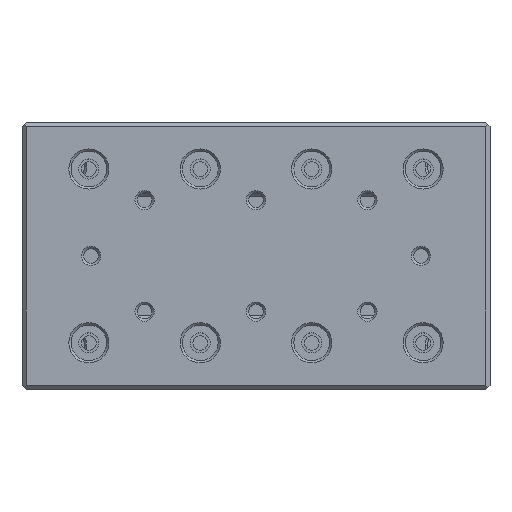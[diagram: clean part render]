
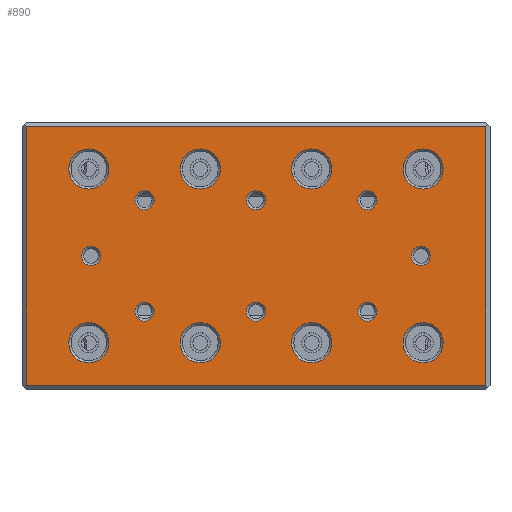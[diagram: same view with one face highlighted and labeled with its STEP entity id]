
A CAD part, top view. The second image highlights one B-rep face of the part: STEP entity #890.
In plain terms, the highlighted planar face has unit normal (0, 0, 1) as drawn and (0, 0, -1) by its records, which use the part's own axes.
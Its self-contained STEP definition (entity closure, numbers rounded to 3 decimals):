
#890=ADVANCED_FACE('',(#1558,#1559,#1560,#1561,#1562,#1563,#1564,#1565,
#1566,#1567,#1568,#1569,#1570,#1571,#1572,#1573,#1574),#1068,.F.);
#1068=PLANE('',#5979);
#1363=CIRCLE('',#5963,2.15);
#1364=CIRCLE('',#5964,2.15);
#1365=CIRCLE('',#5965,2.15);
#1366=CIRCLE('',#5966,2.15);
#1367=CIRCLE('',#5967,2.15);
#1368=CIRCLE('',#5968,2.15);
#1369=CIRCLE('',#5969,2.15);
#1370=CIRCLE('',#5970,2.15);
#1371=CIRCLE('',#5971,4.5);
#1372=CIRCLE('',#5972,4.5);
#1373=CIRCLE('',#5973,4.5);
#1374=CIRCLE('',#5974,4.5);
#1375=CIRCLE('',#5975,4.5);
#1376=CIRCLE('',#5976,4.5);
#1377=CIRCLE('',#5977,4.5);
#1378=CIRCLE('',#5978,4.5);
#1558=FACE_BOUND('',#2058,.T.);
#1559=FACE_BOUND('',#2059,.T.);
#1560=FACE_BOUND('',#2060,.T.);
#1561=FACE_BOUND('',#2061,.T.);
#1562=FACE_BOUND('',#2062,.T.);
#1563=FACE_BOUND('',#2063,.T.);
#1564=FACE_BOUND('',#2064,.T.);
#1565=FACE_BOUND('',#2065,.T.);
#1566=FACE_BOUND('',#2066,.T.);
#1567=FACE_BOUND('',#2067,.T.);
#1568=FACE_BOUND('',#2068,.T.);
#1569=FACE_BOUND('',#2069,.T.);
#1570=FACE_BOUND('',#2070,.T.);
#1571=FACE_BOUND('',#2071,.T.);
#1572=FACE_BOUND('',#2072,.T.);
#1573=FACE_BOUND('',#2073,.T.);
#1574=FACE_BOUND('',#2074,.T.);
#2058=EDGE_LOOP('',(#3345,#3346,#3347,#3348));
#2059=EDGE_LOOP('',(#3349));
#2060=EDGE_LOOP('',(#3350));
#2061=EDGE_LOOP('',(#3351));
#2062=EDGE_LOOP('',(#3352));
#2063=EDGE_LOOP('',(#3353));
#2064=EDGE_LOOP('',(#3354));
#2065=EDGE_LOOP('',(#3355));
#2066=EDGE_LOOP('',(#3356));
#2067=EDGE_LOOP('',(#3357));
#2068=EDGE_LOOP('',(#3358));
#2069=EDGE_LOOP('',(#3359));
#2070=EDGE_LOOP('',(#3360));
#2071=EDGE_LOOP('',(#3361));
#2072=EDGE_LOOP('',(#3362));
#2073=EDGE_LOOP('',(#3363));
#2074=EDGE_LOOP('',(#3364));
#3345=ORIENTED_EDGE('',*,*,#4735,.T.);
#3346=ORIENTED_EDGE('',*,*,#4736,.T.);
#3347=ORIENTED_EDGE('',*,*,#4737,.T.);
#3348=ORIENTED_EDGE('',*,*,#4738,.T.);
#3349=ORIENTED_EDGE('',*,*,#4739,.T.);
#3350=ORIENTED_EDGE('',*,*,#4740,.T.);
#3351=ORIENTED_EDGE('',*,*,#4741,.T.);
#3352=ORIENTED_EDGE('',*,*,#4742,.T.);
#3353=ORIENTED_EDGE('',*,*,#4743,.T.);
#3354=ORIENTED_EDGE('',*,*,#4744,.T.);
#3355=ORIENTED_EDGE('',*,*,#4745,.T.);
#3356=ORIENTED_EDGE('',*,*,#4746,.T.);
#3357=ORIENTED_EDGE('',*,*,#4747,.T.);
#3358=ORIENTED_EDGE('',*,*,#4748,.T.);
#3359=ORIENTED_EDGE('',*,*,#4749,.T.);
#3360=ORIENTED_EDGE('',*,*,#4750,.T.);
#3361=ORIENTED_EDGE('',*,*,#4751,.T.);
#3362=ORIENTED_EDGE('',*,*,#4752,.T.);
#3363=ORIENTED_EDGE('',*,*,#4753,.T.);
#3364=ORIENTED_EDGE('',*,*,#4754,.T.);
#4048=VERTEX_POINT('',#9202);
#4049=VERTEX_POINT('',#9203);
#4050=VERTEX_POINT('',#9205);
#4051=VERTEX_POINT('',#9207);
#4052=VERTEX_POINT('',#9210);
#4053=VERTEX_POINT('',#9212);
#4054=VERTEX_POINT('',#9214);
#4055=VERTEX_POINT('',#9216);
#4056=VERTEX_POINT('',#9218);
#4057=VERTEX_POINT('',#9220);
#4058=VERTEX_POINT('',#9222);
#4059=VERTEX_POINT('',#9224);
#4060=VERTEX_POINT('',#9226);
#4061=VERTEX_POINT('',#9228);
#4062=VERTEX_POINT('',#9230);
#4063=VERTEX_POINT('',#9232);
#4064=VERTEX_POINT('',#9234);
#4065=VERTEX_POINT('',#9236);
#4066=VERTEX_POINT('',#9238);
#4067=VERTEX_POINT('',#9240);
#4735=EDGE_CURVE('',#4048,#4049,#5115,.T.);
#4736=EDGE_CURVE('',#4049,#4050,#5116,.T.);
#4737=EDGE_CURVE('',#4050,#4051,#5117,.T.);
#4738=EDGE_CURVE('',#4051,#4048,#5118,.T.);
#4739=EDGE_CURVE('',#4052,#4052,#1363,.T.);
#4740=EDGE_CURVE('',#4053,#4053,#1364,.T.);
#4741=EDGE_CURVE('',#4054,#4054,#1365,.T.);
#4742=EDGE_CURVE('',#4055,#4055,#1366,.T.);
#4743=EDGE_CURVE('',#4056,#4056,#1367,.T.);
#4744=EDGE_CURVE('',#4057,#4057,#1368,.T.);
#4745=EDGE_CURVE('',#4058,#4058,#1369,.T.);
#4746=EDGE_CURVE('',#4059,#4059,#1370,.T.);
#4747=EDGE_CURVE('',#4060,#4060,#1371,.T.);
#4748=EDGE_CURVE('',#4061,#4061,#1372,.T.);
#4749=EDGE_CURVE('',#4062,#4062,#1373,.T.);
#4750=EDGE_CURVE('',#4063,#4063,#1374,.T.);
#4751=EDGE_CURVE('',#4064,#4064,#1375,.T.);
#4752=EDGE_CURVE('',#4065,#4065,#1376,.T.);
#4753=EDGE_CURVE('',#4066,#4066,#1377,.T.);
#4754=EDGE_CURVE('',#4067,#4067,#1378,.T.);
#5115=LINE('',#9201,#5397);
#5116=LINE('',#9204,#5398);
#5117=LINE('',#9206,#5399);
#5118=LINE('',#9208,#5400);
#5397=VECTOR('',#7354,1.);
#5398=VECTOR('',#7355,1.);
#5399=VECTOR('',#7356,1.);
#5400=VECTOR('',#7357,1.);
#5963=AXIS2_PLACEMENT_3D('',#9209,#7358,#7359);
#5964=AXIS2_PLACEMENT_3D('',#9211,#7360,#7361);
#5965=AXIS2_PLACEMENT_3D('',#9213,#7362,#7363);
#5966=AXIS2_PLACEMENT_3D('',#9215,#7364,#7365);
#5967=AXIS2_PLACEMENT_3D('',#9217,#7366,#7367);
#5968=AXIS2_PLACEMENT_3D('',#9219,#7368,#7369);
#5969=AXIS2_PLACEMENT_3D('',#9221,#7370,#7371);
#5970=AXIS2_PLACEMENT_3D('',#9223,#7372,#7373);
#5971=AXIS2_PLACEMENT_3D('',#9225,#7374,#7375);
#5972=AXIS2_PLACEMENT_3D('',#9227,#7376,#7377);
#5973=AXIS2_PLACEMENT_3D('',#9229,#7378,#7379);
#5974=AXIS2_PLACEMENT_3D('',#9231,#7380,#7381);
#5975=AXIS2_PLACEMENT_3D('',#9233,#7382,#7383);
#5976=AXIS2_PLACEMENT_3D('',#9235,#7384,#7385);
#5977=AXIS2_PLACEMENT_3D('',#9237,#7386,#7387);
#5978=AXIS2_PLACEMENT_3D('',#9239,#7388,#7389);
#5979=AXIS2_PLACEMENT_3D('',#9241,#7390,#7391);
#7354=DIRECTION('',(1.,0.,0.));
#7355=DIRECTION('',(0.,-1.,0.));
#7356=DIRECTION('',(-1.,0.,0.));
#7357=DIRECTION('',(0.,1.,0.));
#7358=DIRECTION('',(0.,0.,1.));
#7359=DIRECTION('',(1.,0.,0.));
#7360=DIRECTION('',(0.,0.,1.));
#7361=DIRECTION('',(1.,0.,0.));
#7362=DIRECTION('',(0.,0.,1.));
#7363=DIRECTION('',(1.,0.,0.));
#7364=DIRECTION('',(0.,0.,1.));
#7365=DIRECTION('',(1.,0.,0.));
#7366=DIRECTION('',(0.,0.,1.));
#7367=DIRECTION('',(1.,0.,0.));
#7368=DIRECTION('',(0.,0.,1.));
#7369=DIRECTION('',(1.,0.,0.));
#7370=DIRECTION('',(0.,0.,1.));
#7371=DIRECTION('',(1.,0.,0.));
#7372=DIRECTION('',(0.,0.,1.));
#7373=DIRECTION('',(1.,0.,0.));
#7374=DIRECTION('',(0.,0.,1.));
#7375=DIRECTION('',(1.,0.,0.));
#7376=DIRECTION('',(0.,0.,1.));
#7377=DIRECTION('',(1.,0.,0.));
#7378=DIRECTION('',(0.,0.,1.));
#7379=DIRECTION('',(1.,0.,0.));
#7380=DIRECTION('',(0.,0.,1.));
#7381=DIRECTION('',(1.,0.,0.));
#7382=DIRECTION('',(0.,0.,1.));
#7383=DIRECTION('',(1.,0.,0.));
#7384=DIRECTION('',(0.,0.,1.));
#7385=DIRECTION('',(1.,0.,0.));
#7386=DIRECTION('',(0.,0.,1.));
#7387=DIRECTION('',(1.,0.,0.));
#7388=DIRECTION('',(0.,0.,1.));
#7389=DIRECTION('',(1.,0.,0.));
#7390=DIRECTION('',(0.,0.,1.));
#7391=DIRECTION('',(-1.,0.,0.));
#9201=CARTESIAN_POINT('',(-51.5,29.,0.));
#9202=CARTESIAN_POINT('',(-51.5,29.,0.));
#9203=CARTESIAN_POINT('',(51.5,29.,0.));
#9204=CARTESIAN_POINT('',(51.5,29.,0.));
#9205=CARTESIAN_POINT('',(51.5,-29.,0.));
#9206=CARTESIAN_POINT('',(51.5,-29.,0.));
#9207=CARTESIAN_POINT('',(-51.5,-29.,0.));
#9208=CARTESIAN_POINT('',(-51.5,-29.,0.));
#9209=CARTESIAN_POINT('',(-25.,-12.5,0.));
#9210=CARTESIAN_POINT('',(-22.85,-12.5,0.));
#9211=CARTESIAN_POINT('',(-25.,12.5,0.));
#9212=CARTESIAN_POINT('',(-22.85,12.5,0.));
#9213=CARTESIAN_POINT('',(0.,-12.5,0.));
#9214=CARTESIAN_POINT('',(2.15,-12.5,0.));
#9215=CARTESIAN_POINT('',(0.,12.5,0.));
#9216=CARTESIAN_POINT('',(2.15,12.5,0.));
#9217=CARTESIAN_POINT('',(25.,-12.5,0.));
#9218=CARTESIAN_POINT('',(27.15,-12.5,0.));
#9219=CARTESIAN_POINT('',(25.,12.5,0.));
#9220=CARTESIAN_POINT('',(27.15,12.5,0.));
#9221=CARTESIAN_POINT('',(37.,0.,0.));
#9222=CARTESIAN_POINT('',(39.15,0.,0.));
#9223=CARTESIAN_POINT('',(-37.,0.,0.));
#9224=CARTESIAN_POINT('',(-34.85,0.,0.));
#9225=CARTESIAN_POINT('',(-37.5,19.5,0.));
#9226=CARTESIAN_POINT('',(-33.,19.5,0.));
#9227=CARTESIAN_POINT('',(-12.5,19.5,0.));
#9228=CARTESIAN_POINT('',(-8.,19.5,0.));
#9229=CARTESIAN_POINT('',(12.5,19.5,0.));
#9230=CARTESIAN_POINT('',(17.,19.5,0.));
#9231=CARTESIAN_POINT('',(37.5,19.5,0.));
#9232=CARTESIAN_POINT('',(42.,19.5,0.));
#9233=CARTESIAN_POINT('',(37.5,-19.5,0.));
#9234=CARTESIAN_POINT('',(42.,-19.5,0.));
#9235=CARTESIAN_POINT('',(12.5,-19.5,0.));
#9236=CARTESIAN_POINT('',(17.,-19.5,0.));
#9237=CARTESIAN_POINT('',(-12.5,-19.5,0.));
#9238=CARTESIAN_POINT('',(-8.,-19.5,0.));
#9239=CARTESIAN_POINT('',(-37.5,-19.5,0.));
#9240=CARTESIAN_POINT('',(-33.,-19.5,0.));
#9241=CARTESIAN_POINT('',(0.,0.,0.));
